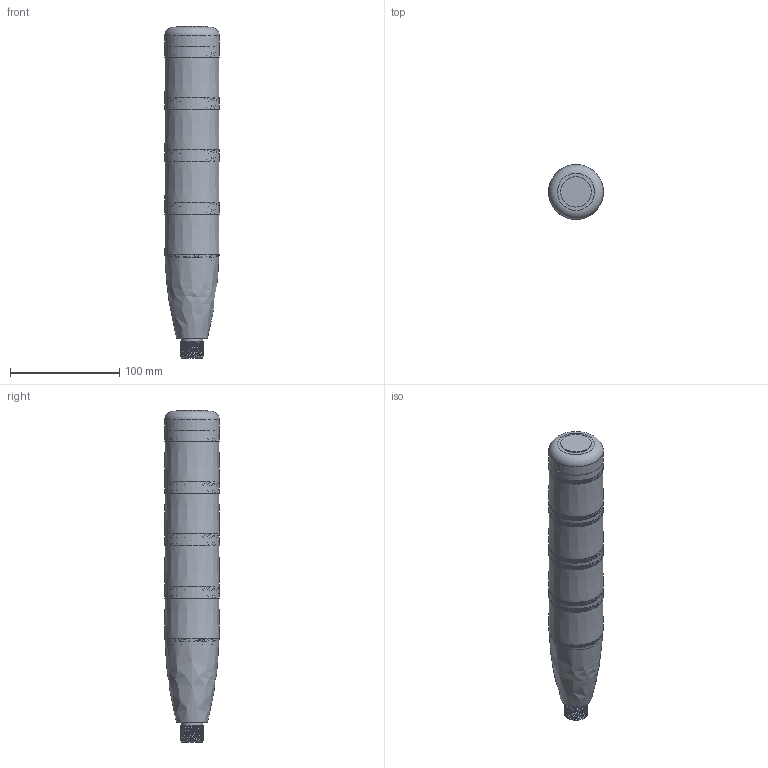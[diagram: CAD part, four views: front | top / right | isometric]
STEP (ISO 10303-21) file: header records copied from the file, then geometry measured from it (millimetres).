
FILE_DESCRIPTION(/* description */ (''),/* implementation_level */ '2;1');
FILE_NAME(/* name */ 'OLE3-401 常亮.stp',/* time_stamp */ '2022-12-13T18:43:00+08:00',/* author */ (''),/* organization */ (''),/* preprocessor_version */ 'ST-DEVELOPER v16.7',/* originating_system */ 'SIEMENS PLM Software NX 12.0',/* authorisation */ '');
FILE_SCHEMA (('AUTOMOTIVE_DESIGN { 1 0 10303 214 3 1 1 1 }'));
Length unit declared in the file: millimetre
Products named in the file (1): Admi15EC76A1t4we
Bounding box: 50.3 x 50.3 x 304.5 mm (x, y, z)
Volume: 106693 mm3; surface area: 130971.4 mm2
Topology: 10 solids, 12 shells, 1665 faces, 4831 edges, 3218 vertices
Faces by surface type: plane 1035, cylinder 553, bspline 59, cone 16, torus 2
Full cylindrical faces by diameter (mm): 18 x2, 20 x1, 28 x1, 32 x4, 39 x4, 42 x1, 43 x3, 44 x4, 46.3 x6, 47 x1, 48.1 x1, 50 x1, 50.3 x4
Entity records: 81698 total; most frequent: CARTESIAN_POINT 37199, ORIENTED_EDGE 9492, DIRECTION 9287, EDGE_CURVE 4746, VERTEX_POINT 3180, AXIS2_PLACEMENT_3D 3170, LINE 2947, VECTOR 2947
